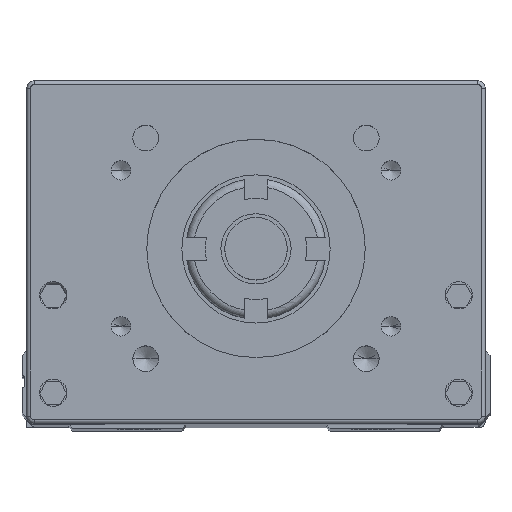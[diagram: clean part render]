
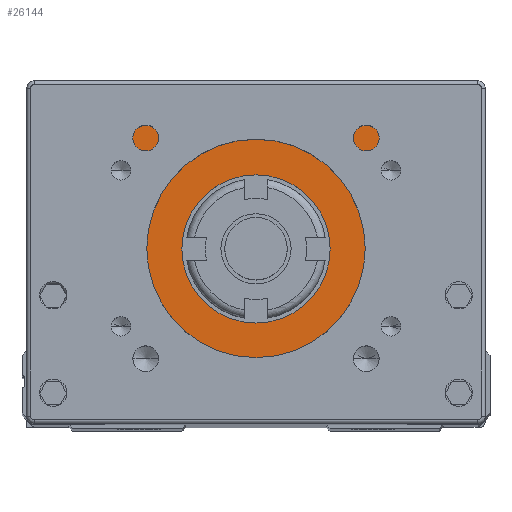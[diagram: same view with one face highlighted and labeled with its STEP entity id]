
A CAD part, top view. The second image highlights one B-rep face of the part: STEP entity #26144.
In plain terms, the highlighted planar face has unit normal (0, 0, 1).
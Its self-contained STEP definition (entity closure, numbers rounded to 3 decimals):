
#288 = ORIENTED_EDGE ( 'NONE', *, *, #27411, .F. ) ;
#537 = DIRECTION ( 'NONE',  ( -1., 0., 0. ) ) ;
#2037 = DIRECTION ( 'NONE',  ( 0., 1., 0. ) ) ;
#2042 = CIRCLE ( 'NONE', #37075, 9.5 ) ;
#2909 = DIRECTION ( 'NONE',  ( -1., 0., 0. ) ) ;
#4905 = EDGE_CURVE ( 'NONE', #25440, #23486, #5628, .T. ) ;
#5158 = VERTEX_POINT ( 'NONE', #12792 ) ;
#5336 = VERTEX_POINT ( 'NONE', #49404 ) ;
#5367 = LINE ( 'NONE', #19496, #7814 ) ;
#5383 = VERTEX_POINT ( 'NONE', #41859 ) ;
#5628 = LINE ( 'NONE', #58321, #12297 ) ;
#5972 = VERTEX_POINT ( 'NONE', #48031 ) ;
#5980 = EDGE_CURVE ( 'NONE', #31507, #5158, #10089, .T. ) ;
#5992 = DIRECTION ( 'NONE',  ( 1., 0., 0. ) ) ;
#7168 = ORIENTED_EDGE ( 'NONE', *, *, #56443, .T. ) ;
#7472 = EDGE_LOOP ( 'NONE', ( #40795, #39855, #28164, #288, #22646, #15392, #11751, #58759, #7168, #9277, #57673, #59045, #22688, #53199 ) ) ;
#7742 = DIRECTION ( 'NONE',  ( 0., 0., 1. ) ) ;
#7814 = VECTOR ( 'NONE', #58388, 1000. ) ;
#8485 = VECTOR ( 'NONE', #51476, 1000. ) ;
#8534 = VECTOR ( 'NONE', #42184, 1000. ) ;
#9277 = ORIENTED_EDGE ( 'NONE', *, *, #40148, .F. ) ;
#9591 = DIRECTION ( 'NONE',  ( 1., 0., 0. ) ) ;
#9829 = FACE_BOUND ( 'NONE', #9989, .T. ) ;
#9989 = EDGE_LOOP ( 'NONE', ( #27594, #41095 ) ) ;
#10089 = LINE ( 'NONE', #18912, #19682 ) ;
#11751 = ORIENTED_EDGE ( 'NONE', *, *, #5980, .F. ) ;
#12297 = VECTOR ( 'NONE', #38237, 1000. ) ;
#12711 = CARTESIAN_POINT ( 'NONE',  ( 51.735, 12.398, 118.5 ) ) ;
#12761 = CIRCLE ( 'NONE', #47791, 9.5 ) ;
#12770 = CARTESIAN_POINT ( 'NONE',  ( 12.335, 32.398, 118.5 ) ) ;
#12792 = CARTESIAN_POINT ( 'NONE',  ( 51.735, 29.398, 118.5 ) ) ;
#15392 = ORIENTED_EDGE ( 'NONE', *, *, #19058, .F. ) ;
#15672 = CARTESIAN_POINT ( 'NONE',  ( 24.351, 12.398, 118.5 ) ) ;
#15977 = CARTESIAN_POINT ( 'NONE',  ( 32.335, 23.898, 118.5 ) ) ;
#16395 = LINE ( 'NONE', #17942, #8485 ) ;
#16773 = CARTESIAN_POINT ( 'NONE',  ( 3.935, 26.398, 118.5 ) ) ;
#16976 = AXIS2_PLACEMENT_3D ( 'NONE', #19627, #29042, #9591 ) ;
#17942 = CARTESIAN_POINT ( 'NONE',  ( 12.935, 26.398, 118.5 ) ) ;
#17969 = EDGE_CURVE ( 'NONE', #55555, #5383, #12761, .T. ) ;
#18325 = EDGE_CURVE ( 'NONE', #5972, #31507, #42504, .T. ) ;
#18711 = CARTESIAN_POINT ( 'NONE',  ( 60.735, 26.398, 118.5 ) ) ;
#18912 = CARTESIAN_POINT ( 'NONE',  ( 12.935, 29.398, 118.5 ) ) ;
#19058 = EDGE_CURVE ( 'NONE', #5158, #36729, #5367, .T. ) ;
#19474 = LINE ( 'NONE', #24210, #38505 ) ;
#19496 = CARTESIAN_POINT ( 'NONE',  ( 51.735, 26.398, 118.5 ) ) ;
#19627 = CARTESIAN_POINT ( 'NONE',  ( 32.335, 23.898, 118.5 ) ) ;
#19638 = AXIS2_PLACEMENT_3D ( 'NONE', #48063, #33674, #33983 ) ;
#19682 = VECTOR ( 'NONE', #47391, 1000. ) ;
#19794 = EDGE_CURVE ( 'NONE', #23486, #20619, #30423, .T. ) ;
#20619 = VERTEX_POINT ( 'NONE', #39628 ) ;
#20731 = CARTESIAN_POINT ( 'NONE',  ( 12.335, 26.398, 118.5 ) ) ;
#21668 = DIRECTION ( 'NONE',  ( 1., 0., 0. ) ) ;
#22646 = ORIENTED_EDGE ( 'NONE', *, *, #36731, .F. ) ;
#22688 = ORIENTED_EDGE ( 'NONE', *, *, #4905, .F. ) ;
#23065 = DIRECTION ( 'NONE',  ( -1., 0., 0. ) ) ;
#23486 = VERTEX_POINT ( 'NONE', #12770 ) ;
#24210 = CARTESIAN_POINT ( 'NONE',  ( 12.935, 44.398, 118.5 ) ) ;
#25440 = VERTEX_POINT ( 'NONE', #32583 ) ;
#25665 = CARTESIAN_POINT ( 'NONE',  ( 12.935, 12.398, 118.5 ) ) ;
#26144 = ADVANCED_FACE ( 'NONE', ( #9829, #34919 ), #58132, .F. ) ;
#26265 = LINE ( 'NONE', #25665, #32796 ) ;
#26747 = VERTEX_POINT ( 'NONE', #40614 ) ;
#27411 = EDGE_CURVE ( 'NONE', #26747, #50858, #40012, .T. ) ;
#27594 = ORIENTED_EDGE ( 'NONE', *, *, #39480, .F. ) ;
#28164 = ORIENTED_EDGE ( 'NONE', *, *, #29866, .F. ) ;
#28663 = VERTEX_POINT ( 'NONE', #43554 ) ;
#29042 = DIRECTION ( 'NONE',  ( 0., 0., -1. ) ) ;
#29443 = VECTOR ( 'NONE', #2037, 1000. ) ;
#29866 = EDGE_CURVE ( 'NONE', #50858, #41367, #26265, .T. ) ;
#30204 = DIRECTION ( 'NONE',  ( 0., 0., 1. ) ) ;
#30423 = LINE ( 'NONE', #20731, #38976 ) ;
#31507 = VERTEX_POINT ( 'NONE', #36521 ) ;
#32465 = CARTESIAN_POINT ( 'NONE',  ( 12.935, 12.398, 118.5 ) ) ;
#32583 = CARTESIAN_POINT ( 'NONE',  ( 3.935, 32.398, 118.5 ) ) ;
#32796 = VECTOR ( 'NONE', #52693, 1000. ) ;
#32831 = DIRECTION ( 'NONE',  ( 0., -1., 0. ) ) ;
#33137 = LINE ( 'NONE', #36598, #8534 ) ;
#33674 = DIRECTION ( 'NONE',  ( 0., 0., -1. ) ) ;
#33983 = DIRECTION ( 'NONE',  ( 0., -1., 0. ) ) ;
#34919 = FACE_OUTER_BOUND ( 'NONE', #7472, .T. ) ;
#35516 = VECTOR ( 'NONE', #32831, 1000. ) ;
#36521 = CARTESIAN_POINT ( 'NONE',  ( 60.735, 29.398, 118.5 ) ) ;
#36598 = CARTESIAN_POINT ( 'NONE',  ( 52.335, 26.398, 118.5 ) ) ;
#36729 = VERTEX_POINT ( 'NONE', #12711 ) ;
#36731 = EDGE_CURVE ( 'NONE', #36729, #26747, #50947, .T. ) ;
#36756 = CARTESIAN_POINT ( 'NONE',  ( 12.935, 29.398, 118.5 ) ) ;
#37075 = AXIS2_PLACEMENT_3D ( 'NONE', #15977, #7742, #53623 ) ;
#38173 = CARTESIAN_POINT ( 'NONE',  ( 51.735, 32.398, 118.5 ) ) ;
#38237 = DIRECTION ( 'NONE',  ( 1., 0., 0. ) ) ;
#38463 = CARTESIAN_POINT ( 'NONE',  ( 52.335, 44.398, 118.5 ) ) ;
#38505 = VECTOR ( 'NONE', #5992, 1000. ) ;
#38976 = VECTOR ( 'NONE', #39221, 1000. ) ;
#39221 = DIRECTION ( 'NONE',  ( 0., 1., 0. ) ) ;
#39480 = EDGE_CURVE ( 'NONE', #5383, #55555, #2042, .T. ) ;
#39628 = CARTESIAN_POINT ( 'NONE',  ( 12.335, 44.398, 118.5 ) ) ;
#39855 = ORIENTED_EDGE ( 'NONE', *, *, #61668, .F. ) ;
#40012 = CIRCLE ( 'NONE', #16976, 14. ) ;
#40148 = EDGE_CURVE ( 'NONE', #48813, #28663, #33137, .T. ) ;
#40340 = EDGE_CURVE ( 'NONE', #5336, #48579, #49930, .T. ) ;
#40462 = VECTOR ( 'NONE', #2909, 1000. ) ;
#40614 = CARTESIAN_POINT ( 'NONE',  ( 40.32, 12.398, 118.5 ) ) ;
#40767 = CARTESIAN_POINT ( 'NONE',  ( 32.335, 23.898, 118.5 ) ) ;
#40795 = ORIENTED_EDGE ( 'NONE', *, *, #40340, .F. ) ;
#41095 = ORIENTED_EDGE ( 'NONE', *, *, #17969, .F. ) ;
#41367 = VERTEX_POINT ( 'NONE', #45561 ) ;
#41859 = CARTESIAN_POINT ( 'NONE',  ( 41.835, 23.898, 118.5 ) ) ;
#42184 = DIRECTION ( 'NONE',  ( 0., -1., 0. ) ) ;
#42504 = LINE ( 'NONE', #18711, #35516 ) ;
#43554 = CARTESIAN_POINT ( 'NONE',  ( 52.335, 32.398, 118.5 ) ) ;
#45561 = CARTESIAN_POINT ( 'NONE',  ( 12.935, 12.398, 118.5 ) ) ;
#46284 = EDGE_CURVE ( 'NONE', #48579, #25440, #59747, .T. ) ;
#46556 = EDGE_CURVE ( 'NONE', #20619, #48813, #19474, .T. ) ;
#47391 = DIRECTION ( 'NONE',  ( -1., 0., 0. ) ) ;
#47432 = VECTOR ( 'NONE', #537, 1000. ) ;
#47791 = AXIS2_PLACEMENT_3D ( 'NONE', #40767, #30204, #21668 ) ;
#48031 = CARTESIAN_POINT ( 'NONE',  ( 60.735, 32.398, 118.5 ) ) ;
#48063 = CARTESIAN_POINT ( 'NONE',  ( 12.935, 26.398, 118.5 ) ) ;
#48579 = VERTEX_POINT ( 'NONE', #53339 ) ;
#48713 = CARTESIAN_POINT ( 'NONE',  ( 22.835, 23.898, 118.5 ) ) ;
#48813 = VERTEX_POINT ( 'NONE', #38463 ) ;
#49404 = CARTESIAN_POINT ( 'NONE',  ( 12.935, 29.398, 118.5 ) ) ;
#49930 = LINE ( 'NONE', #36756, #40462 ) ;
#50858 = VERTEX_POINT ( 'NONE', #15672 ) ;
#50947 = LINE ( 'NONE', #32465, #58580 ) ;
#51476 = DIRECTION ( 'NONE',  ( 0., 1., 0. ) ) ;
#52693 = DIRECTION ( 'NONE',  ( -1., 0., 0. ) ) ;
#53199 = ORIENTED_EDGE ( 'NONE', *, *, #46284, .F. ) ;
#53339 = CARTESIAN_POINT ( 'NONE',  ( 3.935, 29.398, 118.5 ) ) ;
#53623 = DIRECTION ( 'NONE',  ( 1., 0., 0. ) ) ;
#55555 = VERTEX_POINT ( 'NONE', #48713 ) ;
#56443 = EDGE_CURVE ( 'NONE', #5972, #28663, #58560, .T. ) ;
#57673 = ORIENTED_EDGE ( 'NONE', *, *, #46556, .F. ) ;
#58132 = PLANE ( 'NONE',  #19638 ) ;
#58321 = CARTESIAN_POINT ( 'NONE',  ( 12.935, 32.398, 118.5 ) ) ;
#58388 = DIRECTION ( 'NONE',  ( 0., -1., 0. ) ) ;
#58560 = LINE ( 'NONE', #38173, #47432 ) ;
#58580 = VECTOR ( 'NONE', #23065, 1000. ) ;
#58759 = ORIENTED_EDGE ( 'NONE', *, *, #18325, .F. ) ;
#59045 = ORIENTED_EDGE ( 'NONE', *, *, #19794, .F. ) ;
#59747 = LINE ( 'NONE', #16773, #29443 ) ;
#61668 = EDGE_CURVE ( 'NONE', #41367, #5336, #16395, .T. ) ;
